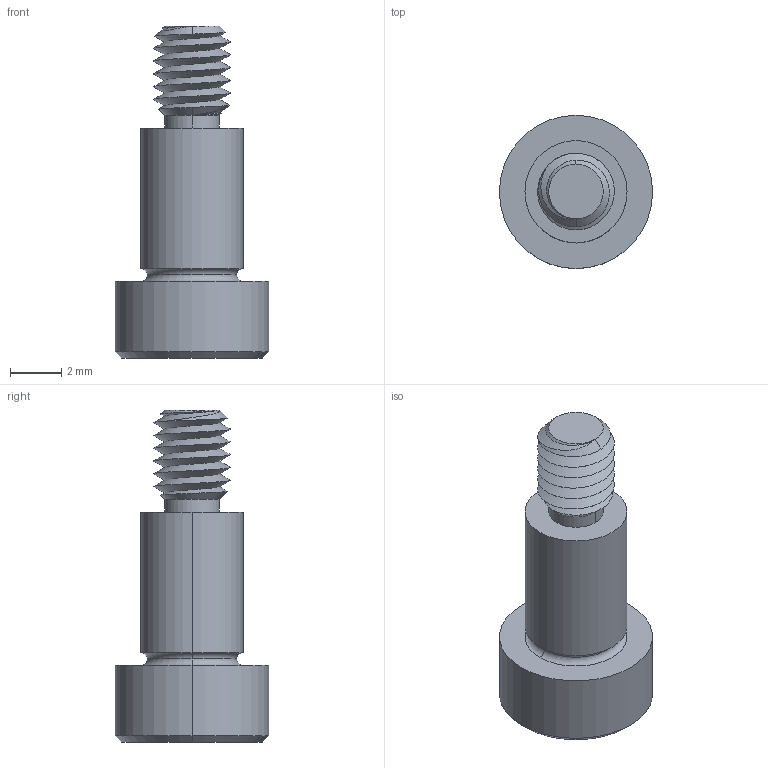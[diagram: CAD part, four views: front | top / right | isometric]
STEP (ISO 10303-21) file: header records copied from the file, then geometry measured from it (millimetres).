
FILE_DESCRIPTION (( 'STEP AP203' ), '1' );
FILE_NAME ('P0130.040-006-B2.step', '2021-11-09T21:01:41', ( '' ), ( '' ), 'SwSTEP 2.0', 'SolidWorks 2019', '' );
FILE_SCHEMA (( 'CONFIG_CONTROL_DESIGN' ));
Length unit declared in the file: millimetre
Products named in the file (1): P0130.040-006-B2
Bounding box: 6 x 6 x 13 mm (x, y, z)
Volume: 170.6 mm3; surface area: 259.7 mm2
Topology: 1 solids, 1 shells, 54 faces, 124 edges, 73 vertices
Faces by surface type: cylinder 18, plane 16, cone 14, torus 4, bspline 2
Entity records: 2218 total; most frequent: CARTESIAN_POINT 1016, ORIENTED_EDGE 244, DIRECTION 229, EDGE_CURVE 122, AXIS2_PLACEMENT_3D 93, VERTEX_POINT 73, EDGE_LOOP 57, ADVANCED_FACE 54
